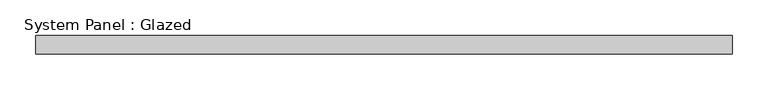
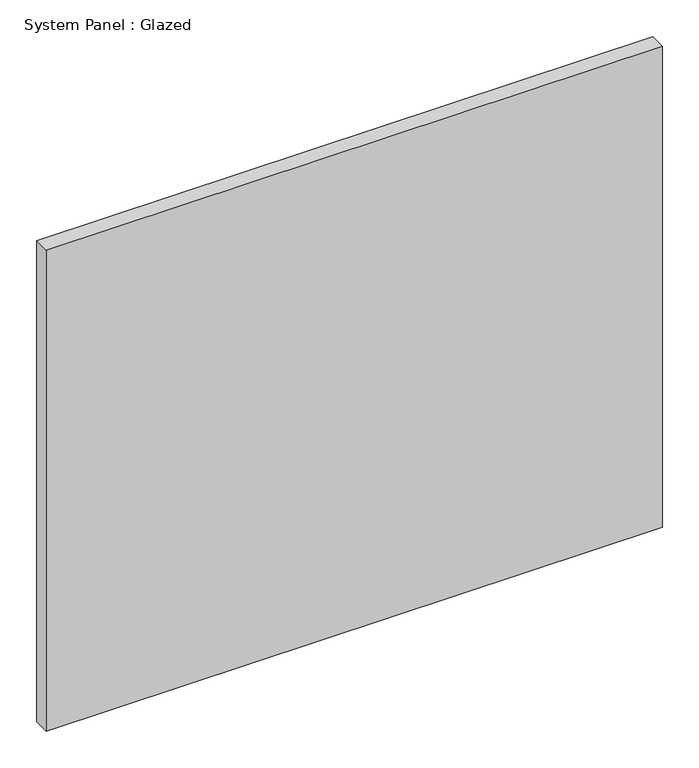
"""IFC4 building model written with IfcOpenShell, lengths in millimetres: plate geometry, System Panel : Glazed."""

from ifc_helpers import new_model, si_unit, origin, origin_with_axes, place, context, project, spatial, polyline, outline, extrude, source, transform, mapped, element, save


def system_panel_glazed_22fd2b86(model_context):
    return source(origin(), model_context, "Body", "SweptSolid", [
        extrude(outline(polyline([(484.1041768, 19.05), (-484.1041768, 19.05), (-484.1041768, 44.45), (484.1041768, 44.45), (484.1041768, 19.05)])), origin_with_axes(), (0.0, 0.0, 1.0), 798.5967633),
    ])


if __name__ == "__main__":
    model = new_model("IFC4")
    model_context = context("Model", 3, world=origin())
    ifc_project = project(units=[si_unit("LENGTHUNIT", "METRE", prefix="MILLI")], contexts=[model_context])
    site = spatial("IfcSite", under=ifc_project)
    building = spatial("IfcBuilding", under=site)
    placement = place(None, origin())
    system_panel_glazed_shape = system_panel_glazed_22fd2b86(model_context)
    element("IfcPlate", 1, ObjectType="System Panel : Glazed", at=placement, inside=building, context=model_context, shape_type="MappedRepresentation", body=[
        mapped(system_panel_glazed_shape, transform((0.0, 0.0, 0.0), x_axis=(1.0, 0.0, 0.0), y_axis=(0.0, 1.0, 0.0), z_axis=(0.0, 0.0, 1.0))),
    ])
    save(model, "model.ifc")
